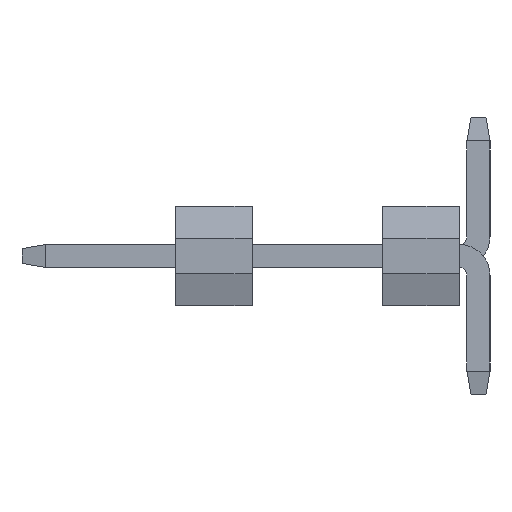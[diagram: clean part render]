
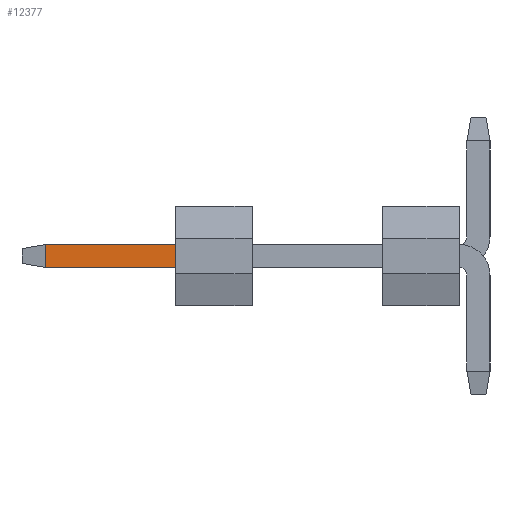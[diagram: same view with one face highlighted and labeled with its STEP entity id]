
A CAD part, left-side view. The second image highlights one B-rep face of the part: STEP entity #12377.
In plain terms, the highlighted planar face has unit normal (-1, 0, 0).
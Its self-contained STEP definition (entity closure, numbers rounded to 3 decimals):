
#3480 = CARTESIAN_POINT ( 'NONE',  ( -1.169, 4.015, -0.25 ) ) ;
#3587 = ORIENTED_EDGE ( 'NONE', *, *, #29513, .T. ) ;
#4142 = EDGE_CURVE ( 'NONE', #28288, #18964, #6216, .T. ) ;
#6216 = LINE ( 'NONE', #3480, #13458 ) ;
#6242 = CARTESIAN_POINT ( 'NONE',  ( -1.169, -1.385, -0.25 ) ) ;
#6484 = EDGE_LOOP ( 'NONE', ( #13768, #27738, #18142, #3587 ) ) ;
#7553 = CARTESIAN_POINT ( 'NONE',  ( -1.169, 4.015, 0.15 ) ) ;
#9314 = DIRECTION ( 'NONE',  ( 0., 0., -1. ) ) ;
#9505 = CARTESIAN_POINT ( 'NONE',  ( -1.169, 4.015, -0.15 ) ) ;
#10077 = DIRECTION ( 'NONE',  ( 0., -1., 0. ) ) ;
#12377 = ADVANCED_FACE ( 'NONE', ( #22687 ), #20307, .F. ) ;
#12643 = VERTEX_POINT ( 'NONE', #14616 ) ;
#12802 = VECTOR ( 'NONE', #34375, 1000. ) ;
#13458 = VECTOR ( 'NONE', #9314, 1000. ) ;
#13768 = ORIENTED_EDGE ( 'NONE', *, *, #23797, .T. ) ;
#14616 = CARTESIAN_POINT ( 'NONE',  ( -1.169, 2.315, -0.15 ) ) ;
#14998 = CARTESIAN_POINT ( 'NONE',  ( -1.169, 4.315, 0.15 ) ) ;
#15002 = DIRECTION ( 'NONE',  ( 1., 0., 0. ) ) ;
#15383 = CARTESIAN_POINT ( 'NONE',  ( -1.169, -1.385, -0.15 ) ) ;
#16311 = EDGE_CURVE ( 'NONE', #18964, #12643, #26671, .T. ) ;
#16848 = VECTOR ( 'NONE', #27993, 1000. ) ;
#18142 = ORIENTED_EDGE ( 'NONE', *, *, #16311, .T. ) ;
#18964 = VERTEX_POINT ( 'NONE', #9505 ) ;
#19245 = CARTESIAN_POINT ( 'NONE',  ( -1.169, 2.315, -0.65 ) ) ;
#20211 = CARTESIAN_POINT ( 'NONE',  ( -1.169, 2.315, 0.15 ) ) ;
#20242 = VERTEX_POINT ( 'NONE', #20211 ) ;
#20307 = PLANE ( 'NONE',  #27457 ) ;
#20672 = DIRECTION ( 'NONE',  ( 0., 1., 0. ) ) ;
#22687 = FACE_OUTER_BOUND ( 'NONE', #6484, .T. ) ;
#23797 = EDGE_CURVE ( 'NONE', #20242, #28288, #28713, .T. ) ;
#26671 = LINE ( 'NONE', #15383, #26884 ) ;
#26884 = VECTOR ( 'NONE', #10077, 1000. ) ;
#27457 = AXIS2_PLACEMENT_3D ( 'NONE', #6242, #15002, #20672 ) ;
#27738 = ORIENTED_EDGE ( 'NONE', *, *, #4142, .T. ) ;
#27993 = DIRECTION ( 'NONE',  ( 0., 0., 1. ) ) ;
#28288 = VERTEX_POINT ( 'NONE', #7553 ) ;
#28713 = LINE ( 'NONE', #14998, #12802 ) ;
#29513 = EDGE_CURVE ( 'NONE', #12643, #20242, #36037, .T. ) ;
#34375 = DIRECTION ( 'NONE',  ( 0., 1., 0. ) ) ;
#36037 = LINE ( 'NONE', #19245, #16848 ) ;
